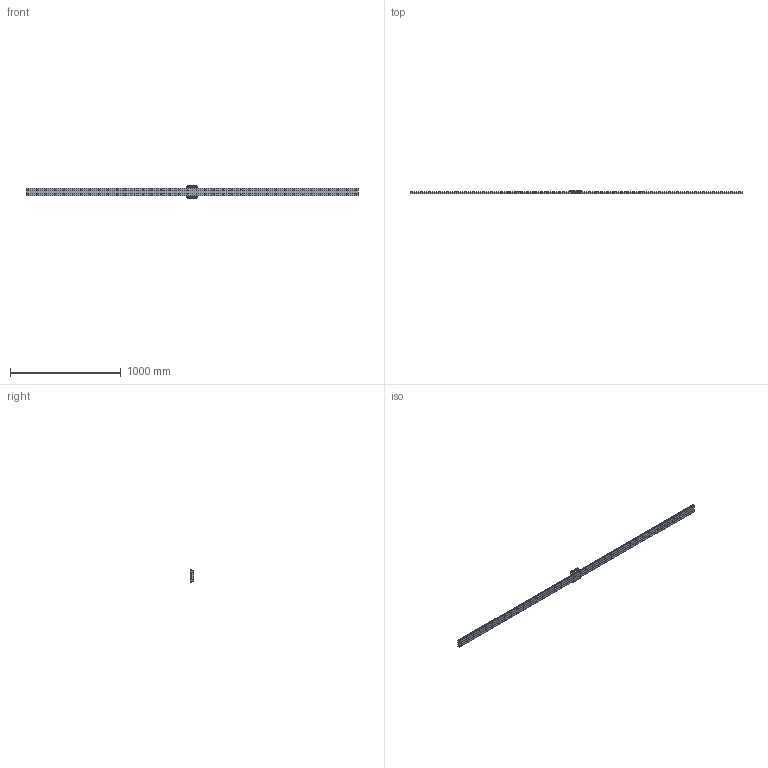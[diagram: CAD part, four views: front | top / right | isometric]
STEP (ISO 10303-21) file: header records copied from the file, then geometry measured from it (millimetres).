
FILE_DESCRIPTION(/* description */ ('STEP AP214'),/* implementation_level */ '2;1');
FILE_NAME(/* name */ 'HRW35CA1M-3000LM_G20_0_B-M6F_1450-2_0_0_0_1',/* time_stamp */ '2023-09-26T15:10:07+02:00',/* author */ ('License CC BY-ND 4.0'),/* organization */ ('CADENAS'),/* preprocessor_version */ 'ST-DEVELOPER v19.3',/* originating_system */ 'PARTsolutions',/* authorisation */ ' ');
FILE_SCHEMA (('AUTOMOTIVE_DESIGN {1 0 10303 214 3 1 1}'));
Length unit declared in the file: millimetre
Products named in the file (4): HRW35CA1M-3000LM_G20_0_B-M6F_1450-2_0_0_0_1; HRW-B-M6F_grease_nipple_joint; HRW35CAB-M6F1 Slide17-60; HRW35CA300020 Track
Assembly tree (3 placements, depth 2):
  HRW35CA1M-3000LM_G20_0_B-M6F_1450-2_0_0_0_1
    HRW-B-M6F_grease_nipple_joint
    HRW35CAB-M6F1 Slide17-60
    HRW35CA300020 Track
Bounding box: 3000 x 35 x 120 mm (x, y, z)
Volume: 3720926.2 mm3; surface area: 623313.9 mm2
Topology: 3 solids, 3 shells, 452 faces, 1050 edges, 689 vertices
Faces by surface type: plane 224, cylinder 192, cone 25, torus 8, sphere 3
Full cylindrical faces by diameter (mm): 3 x6, 4.917 x2, 6 x1, 6.647 x2, 6.8 x4, 7 x76, 8 x1, 11 x76, 11.5 x2
Entity records: 12411 total; most frequent: DIRECTION 2150, CARTESIAN_POINT 2137, ORIENTED_EDGE 1684, FACE_BOUND 903, EDGE_LOOP 901, AXIS2_PLACEMENT_3D 888, EDGE_CURVE 842, VERTEX_POINT 683
